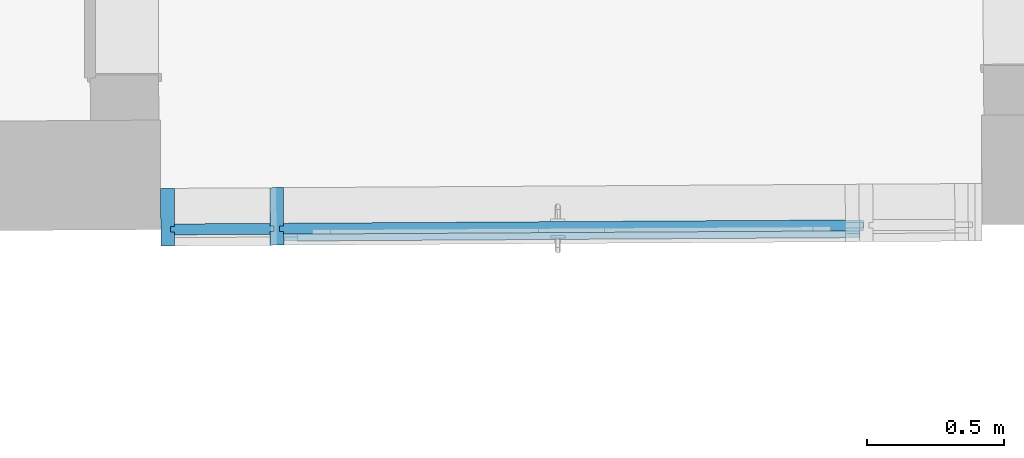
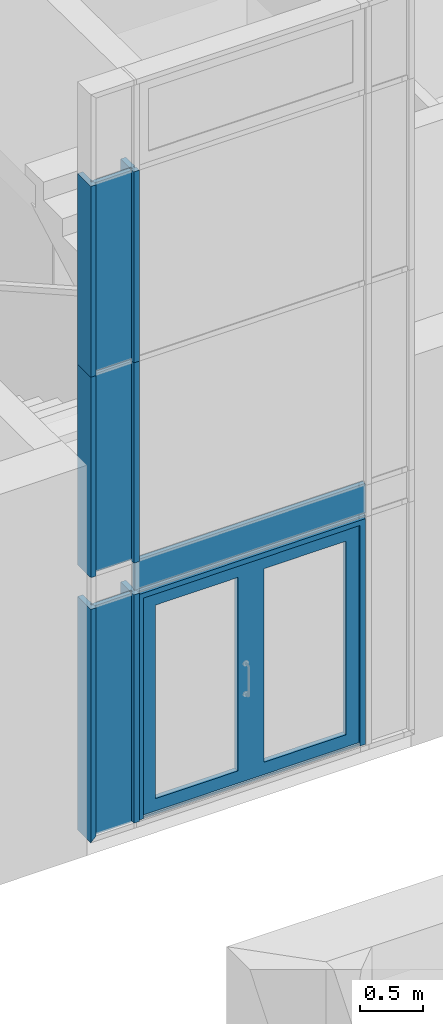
# One storey, part 116 of 196: 11 building element parts, 1 element without a shape of its own.
"""IFC2X3 building model written with IfcOpenShell, lengths in metres."""

import ifcopenshell
import ifcopenshell.guid

model = None  # the IFC model being written
_history = None  # IfcOwnerHistory: only IFC2X3 demands one
_inside = {}  # id of a spatial element -> (the spatial element, [elements in it])
_under = {}  # id of a project, library or spatial element -> (it, [spatial elements below it])
_declared = {}  # id of a project -> (the project, [libraries it declares])
_typed = {}  # id of a type object -> (the type object, [elements of that type])
_made_of = {}  # id of a material, layer set ... -> (it, [elements and type objects made of it])


def new_model(schema):
    """Start an empty IFC model of exactly this schema.

    Asked for "IFC4X3", IfcOpenShell would pick the latest addendum, in which some entities
    have other attributes; the version numbers below select the first issue.
    IFC2X3 requires an IfcOwnerHistory on every rooted entity: one is made here for all.
    """
    global model, _history
    if schema == "IFC4X3":
        model = ifcopenshell.file(schema_version=(4, 3, 0, 0))
    else:
        model = ifcopenshell.file(schema=schema)
    _inside.clear()
    _under.clear()
    _declared.clear()
    _typed.clear()
    _made_of.clear()
    _history = None
    if model.schema == "IFC2X3":
        org = make("IfcOrganization", Name="unknown")
        user = make(
            "IfcPersonAndOrganization",
            ThePerson=make("IfcPerson", FamilyName="unknown"),
            TheOrganization=org,
        )
        app = make(
            "IfcApplication",
            ApplicationDeveloper=org,
            Version="unknown",
            ApplicationFullName="unknown",
            ApplicationIdentifier="unknown",
        )
        _history = make(
            "IfcOwnerHistory",
            OwningUser=user,
            OwningApplication=app,
            ChangeAction="ADDED",
            CreationDate=0,
        )
    return model


def make(cls, **values):
    """One entity of the class cls with the attributes given. An attribute that is None is left unset."""
    return model.create_entity(
        cls, **{name: value for name, value in values.items() if value is not None}
    )


def entity(cls, *values):
    """Any entity or typed value of the class cls, its attributes in the order of the schema. None: left unset."""
    e = model.create_entity(cls)
    for i, value in enumerate(values):
        if value is not None:
            e[i] = value
    return e


def rooted(cls, **values):
    """An entity with a GlobalId (a new one), such as an element, a storey or a relation."""
    return make(cls, GlobalId=ifcopenshell.guid.new(), OwnerHistory=_history, **values)


def si_unit(unit_type, name, prefix=None):
    """IfcSIUnit, for example si_unit("LENGTHUNIT", "METRE", prefix="MILLI")."""
    return make("IfcSIUnit", UnitType=unit_type, Prefix=prefix, Name=name)


def converted_unit(unit_type, name, factor, base, dimensions=None, offset=None):
    """IfcConversionBasedUnit, such as the inch: factor (a typed value) times the base unit."""
    return make(
        "IfcConversionBasedUnit"
        if offset is None
        else "IfcConversionBasedUnitWithOffset",
        ConversionOffset=offset,
        Dimensions=None
        if dimensions is None
        else entity("IfcDimensionalExponents", *dimensions),
        UnitType=unit_type,
        Name=name,
        ConversionFactor=make(
            "IfcMeasureWithUnit", ValueComponent=factor, UnitComponent=base
        ),
    )


def derived_unit(unit_type, elements):
    """IfcDerivedUnit: a product of units, each with its exponent."""
    return make(
        "IfcDerivedUnit",
        Elements=[
            make("IfcDerivedUnitElement", Unit=unit, Exponent=power)
            for unit, power in elements
        ],
        UnitType=unit_type,
    )


def money_unit(currency):
    """IfcMonetaryUnit."""
    return make("IfcMonetaryUnit", Currency=currency)


def assignment(units):
    """IfcUnitAssignment: the units of a project."""
    return None if units is None else make("IfcUnitAssignment", Units=units)


def point(xyz):
    """IfcCartesianPoint."""
    return None if xyz is None else make("IfcCartesianPoint", Coordinates=xyz)


def direction(xyz):
    """IfcDirection."""
    return None if xyz is None else make("IfcDirection", DirectionRatios=xyz)


def frame(location, z_axis=None, x_axis=None):
    """IfcAxis2Placement3D, a coordinate frame: its origin and axes. An axis left out is left unset."""
    return make(
        "IfcAxis2Placement3D",
        Location=point(location),
        Axis=direction(z_axis),
        RefDirection=direction(x_axis),
    )


def origin_with_axes():
    """The frame at (0, 0, 0) with the z axis (0, 0, 1) and the x axis (1, 0, 0) written out."""
    return frame((0.0, 0.0, 0.0), z_axis=(0.0, 0.0, 1.0), x_axis=(1.0, 0.0, 0.0))


def place(relative_to, where):
    """IfcLocalPlacement: puts the frame where relative to a parent placement (None: the world)."""
    return make(
        "IfcLocalPlacement", PlacementRelTo=relative_to, RelativePlacement=where
    )


def context(
    kind, dimensions, precision=None, world=None, true_north=None, identifier=None
):
    """IfcGeometricRepresentationContext, for example the 3D "Model" context."""
    return make(
        "IfcGeometricRepresentationContext",
        ContextIdentifier=identifier,
        ContextType=kind,
        CoordinateSpaceDimension=dimensions,
        Precision=precision,
        WorldCoordinateSystem=world,
        TrueNorth=true_north,
    )


def subcontext(parent, identifier, kind, view, scale=None):
    """IfcGeometricRepresentationSubContext, for example "Body" below "Model"."""
    return make(
        "IfcGeometricRepresentationSubContext",
        ContextIdentifier=identifier,
        ContextType=kind,
        ParentContext=parent,
        TargetScale=scale,
        TargetView=view,
    )


def project(units=None, contexts=None):
    """IfcProject with its units and contexts."""
    return rooted(
        "IfcProject",
        Name="project",
        RepresentationContexts=contexts,
        UnitsInContext=assignment(units),
    )


def spatial(cls, under=None, at=None, **own):
    """A site, building, storey or space (cls), placed at a placement, below another one or the project."""
    s = rooted(cls, ObjectPlacement=at, **own)
    if under is not None:
        _under.setdefault(under.id(), (under, []))[1].append(s)
    return s


def faces_of(points, faces, orient=None, outer=None):
    """IfcFace entities. A face is a list of loops; a loop is a list of indices into points, from 0.

    orient and outer hold one flag for each loop. By default every Orientation is true, the
    first loop of a face is its IfcFaceOuterBound and the others are IfcFaceBound.
    """
    made = []
    for i, loops in enumerate(faces):
        bounds = []
        for j, loop in enumerate(loops):
            is_outer = j == 0 if outer is None else outer[i][j]
            bounds.append(
                make(
                    "IfcFaceOuterBound" if is_outer else "IfcFaceBound",
                    Bound=make("IfcPolyLoop", Polygon=[points[k] for k in loop]),
                    Orientation=True if orient is None else orient[i][j],
                )
            )
        made.append(make("IfcFace", Bounds=bounds))
    return made


def open_shell(faces, orient=None, outer=None):
    """The faces of one IfcOpenShell. surface_model builds it on its shared points."""
    return ("IfcOpenShell", faces, orient, outer)


def faceted_brep(points, faces, orient=None, outer=None, voids=None):
    """IfcFacetedBrep: a solid bounded by flat faces; with voids (closed shells), ...WithVoids."""
    shared = [point(p) for p in points]
    hull = make("IfcClosedShell", CfsFaces=faces_of(shared, faces, orient, outer))
    if voids is None:
        return make("IfcFacetedBrep", Outer=hull)
    return make(
        "IfcFacetedBrepWithVoids",
        Outer=hull,
        Voids=[
            make(cls, CfsFaces=faces_of(shared, fs, o, b)) for cls, fs, o, b in voids
        ],
    )


def surface_model(cls, points, shells):
    """IfcFaceBasedSurfaceModel or IfcShellBasedSurfaceModel (cls): surfaces that need not close."""
    shared = [point(p) for p in points]
    made = [make(c, CfsFaces=faces_of(shared, fs, o, b)) for c, fs, o, b in shells]
    if cls == "IfcFaceBasedSurfaceModel":
        return make(cls, FbsmFaces=made)
    return make(cls, SbsmBoundary=made)


def shape(context_of_items, identifier, shape_type, items):
    """IfcShapeRepresentation: the items that make up one representation, for example the "Body"."""
    return make(
        "IfcShapeRepresentation",
        ContextOfItems=context_of_items,
        RepresentationIdentifier=identifier,
        RepresentationType=shape_type,
        Items=items,
    )


def material(Name=None, Category=None):
    """IfcMaterial."""
    return make("IfcMaterial", Name=Name, Category=Category)


def made_of(thing, what):
    """Note that an element or type object is made of a material, layer set ...; save() writes the relation."""
    if what is not None:
        _made_of.setdefault(what.id(), (what, []))[1].append(thing)
    return thing


def type_object(cls, material=None, **own):
    """A type object (cls), such as IfcWallType, which elements share."""
    return made_of(rooted(cls, **own), material)


def element(
    cls,
    number,
    at=None,
    inside=None,
    cuts=None,
    type_object=None,
    material=None,
    context=None,
    identifier="Body",
    shape_type=None,
    held_by="IfcProductDefinitionShape",
    body=None,
    shapes=None,
    **own,
):
    """One element of the class cls, such as IfcWall. Its Tag is "e" and its number.

    at: its placement. inside: the storey or other place that contains it. cuts: it is an
    opening in that element (IfcRelVoidsElement). A single representation is given by context,
    identifier, shape_type and body (its items); several are given by shapes. held_by: the class
    of the entity that holds the representations. save() writes the other relations.
    """
    e = rooted(cls, Tag="e%d" % number, ObjectPlacement=at, **own)
    if body is not None:
        shapes = [shape(context, identifier, shape_type, body)]
    if shapes is not None:
        e.Representation = make(held_by, Representations=shapes)
    if inside is not None:
        _inside.setdefault(inside.id(), (inside, []))[1].append(e)
    if cuts is not None:
        rooted(
            "IfcRelVoidsElement", RelatingBuildingElement=cuts, RelatedOpeningElement=e
        )
    if type_object is not None:
        _typed.setdefault(type_object.id(), (type_object, []))[1].append(e)
    return made_of(e, material)


def aggregate(whole, parts):
    """IfcRelAggregates: a whole, such as a stair, and the parts it consists of."""
    return rooted("IfcRelAggregates", RelatingObject=whole, RelatedObjects=parts)


def save(model, path):
    """Write the relations noted so far, then the file.

    IfcRelAggregates (storeys below a building ...), IfcRelContainedInSpatialStructure (elements
    in a storey), IfcRelDefinesByType, IfcRelAssociatesMaterial and IfcRelDeclares: one each for
    every whole, place, type object, material and project.
    """
    for whole, parts in _under.values():
        aggregate(whole, parts)
    for where, things in _inside.values():
        rooted(
            "IfcRelContainedInSpatialStructure",
            RelatedElements=things,
            RelatingStructure=where,
        )
    for kind, things in _typed.values():
        rooted("IfcRelDefinesByType", RelatedObjects=things, RelatingType=kind)
    for what, things in _made_of.values():
        rooted("IfcRelAssociatesMaterial", RelatedObjects=things, RelatingMaterial=what)
    for by, libraries in _declared.values():
        rooted("IfcRelDeclares", RelatingContext=by, RelatedDefinitions=libraries)
    model.write(path)


model = new_model("IFC2X3")

# Units and contexts
model_context = context("Model", 3, precision=1e-05, world=origin_with_axes(), true_north=direction((0.0, 1.0)))
body_context = subcontext(model_context, "Body", "Model", "MODEL_VIEW")
ifc_project = project(units=[si_unit("LENGTHUNIT", "METRE"), si_unit("AREAUNIT", "SQUARE_METRE"), si_unit("VOLUMEUNIT", "CUBIC_METRE"), converted_unit("PLANEANGLEUNIT", "DEGREE", entity("IfcPlaneAngleMeasure", 0.0174532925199), si_unit("PLANEANGLEUNIT", "RADIAN"), dimensions=[0, 0, 0, 0, 0, 0, 0]), money_unit("EUR"), converted_unit("TIMEUNIT", "Year", entity("IfcTimeMeasure", 31556926.0), si_unit("TIMEUNIT", "SECOND"), dimensions=[0, 0, 1, 0, 0, 0, 0]), si_unit("MASSUNIT", "GRAM", prefix="KILO"), si_unit("THERMODYNAMICTEMPERATUREUNIT", "DEGREE_CELSIUS"), si_unit("LUMINOUSINTENSITYUNIT", "LUMEN"), si_unit("ENERGYUNIT", "JOULE", prefix="MEGA"), derived_unit("THERMALCONDUCTANCEUNIT", [(si_unit("POWERUNIT", "WATT"), 1), (si_unit("LENGTHUNIT", "METRE"), -1), (si_unit("THERMODYNAMICTEMPERATUREUNIT", "KELVIN"), -1)]), derived_unit("SPECIFICHEATCAPACITYUNIT", [(si_unit("ENERGYUNIT", "JOULE"), 1), (si_unit("MASSUNIT", "GRAM", prefix="KILO"), -1), (si_unit("THERMODYNAMICTEMPERATUREUNIT", "KELVIN"), -1)]), derived_unit("MASSDENSITYUNIT", [(si_unit("MASSUNIT", "GRAM", prefix="KILO"), 1), (si_unit("VOLUMEUNIT", "CUBIC_METRE"), -1)])], contexts=[model_context])

# Site, building, storey
site_placement = place(None, origin_with_axes())
site = spatial("IfcSite", under=ifc_project, at=site_placement, Name="Gelände", CompositionType="ELEMENT")
building_placement = place(site_placement, origin_with_axes())
building = spatial("IfcBuilding", under=site, at=building_placement, Name="Gebäude", CompositionType="ELEMENT")
storey_placement = place(building_placement, frame((0.0, 0.0, -3.0), z_axis=(0.0, 0.0, 1.0), x_axis=(1.0, 0.0, 0.0)))
storey = spatial("IfcBuildingStorey", under=building, at=storey_placement, Name="KELLERGESCHOSS", CompositionType="ELEMENT", Elevation=-3.0)

# Proxy, building element parts
building_element_proxy_type = type_object("IfcBuildingElementProxyType", Name="Fassadentyp", PredefinedType="NOTDEFINED")
proxy_placement = place(storey_placement, frame((-23.8310150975, 30.9074049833, 0.410855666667), z_axis=(0.0, 0.0, 1.0), x_axis=(1.0, 0.0, 0.0)))
proxy = element("IfcBuildingElementProxy", 1, at=proxy_placement, inside=storey, type_object=building_element_proxy_type, Name="Fassade-002")
ifc_material_1 = material(Name="45_Glas, Normalglas")
building_element_part_1_placement = place(proxy_placement, origin_with_axes())
building_element_part_1 = element("IfcBuildingElementPart", 2, at=building_element_part_1_placement, material=ifc_material_1, Name="45_Glas, Normalglas", context=body_context, shape_type="Brep", body=[
    faceted_brep([(-2.4028618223, 0.00561810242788, 6.39594889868), (-2.4166059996, 0.00553583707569, 6.39594889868), (-2.41636658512, -0.0344634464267, 6.39594889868), (-2.40262240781, -0.0343811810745, 6.39594889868), (-2.4028618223, 0.00561810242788, 4.55226283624), (-2.4166059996, 0.00553583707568, 4.55226283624), (-2.78159947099, 0.00335117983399, 4.55226283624), (-2.78159947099, 0.00335117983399, 6.39594889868), (-2.78136005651, -0.0366481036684, 6.39594889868), (-2.78136005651, -0.0366481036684, 4.55226283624), (-2.41636658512, -0.0344634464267, 4.55226283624), (-2.40262240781, -0.0343811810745, 4.55226283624)], [[[0, 1, 2, 3]], [[0, 4, 5, 6, 7, 1]], [[1, 7, 8, 2]], [[3, 2, 8, 9, 10, 11]], [[4, 0, 3, 11]], [[5, 4, 11, 10]], [[6, 5, 10, 9]], [[7, 6, 9, 8]]]),
])
building_element_part_2_placement = place(proxy_placement, origin_with_axes())
building_element_part_2 = element("IfcBuildingElementPart", 3, at=building_element_part_2_placement, material=ifc_material_1, Name="45_Glas, Normalglas", context=body_context, shape_type="Brep", body=[
    faceted_brep([(-0.250846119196, 0.0184989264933, 2.57656079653), (-0.316643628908, 0.0181050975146, 2.57656079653), (-0.316404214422, -0.0218941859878, 2.57656079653), (-0.25060670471, -0.0215003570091, 2.57656079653), (-0.250846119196, 0.0184989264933, 2.28812768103), (-0.316643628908, 0.0181050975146, 2.28812768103), (-2.3828621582, 0.00573780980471, 2.28812768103), (-2.38286219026, 0.00573780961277, 2.57656079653), (-2.38262277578, -0.0342614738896, 2.57656079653), (-2.38262274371, -0.0342614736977, 2.28812768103), (-0.316404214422, -0.0218941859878, 2.28812768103), (-0.25060670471, -0.0215003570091, 2.28812768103)], [[[0, 1, 2, 3]], [[0, 4, 5, 6, 7, 1]], [[1, 7, 8, 2]], [[3, 2, 8, 9, 10, 11]], [[4, 0, 3, 11]], [[5, 4, 11, 10]], [[6, 5, 10, 9]], [[7, 6, 9, 8]]]),
])
ifc_material_2 = material(Name="53_Metall, Aluminium")
building_element_part_3_placement = place(proxy_placement, origin_with_axes())
building_element_part_3 = element("IfcBuildingElementPart", 4, at=building_element_part_3_placement, material=ifc_material_2, Name="53_Metall, Aluminium", context=body_context, shape_type="SurfaceModel", body=[
    surface_model("IfcShellBasedSurfaceModel", [(-0.26584587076, 0.0184091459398, 0.0500000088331), (-0.340844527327, 0.0179602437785, 0.0500000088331), (-0.340844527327, 0.0179602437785, 2.17812767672), (-0.26584587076, 0.0184091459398, 2.25312767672)], [open_shell([[[0, 1, 2, 3]]])]),
    surface_model("IfcShellBasedSurfaceModel", [(-2.36786243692, 0.00582759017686, 2.25312767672), (-0.26584587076, 0.0184091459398, 2.25312767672), (-0.340844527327, 0.0179602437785, 2.17812767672), (-2.29286378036, 0.00627649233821, 2.17812767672)], [open_shell([[[0, 1, 2, 3]]])]),
    surface_model("IfcShellBasedSurfaceModel", [(-2.36786243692, 0.00582759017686, 0.0500000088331), (-2.36786243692, 0.00582759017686, 2.25312767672), (-2.29286378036, 0.00627649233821, 2.17812767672), (-2.29286378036, 0.00627649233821, 0.0500000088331)], [open_shell([[[0, 1, 2, 3]]])]),
    faceted_brep([(-0.26584587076, 0.0184091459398, 0.0500000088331), (-0.26584587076, 0.0184091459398, 2.25312767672), (-0.26545682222, -0.0465896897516, 2.25312767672), (-0.26545682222, -0.0465896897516, 0.0500000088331), (-0.315844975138, 0.0181098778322, 0.0500000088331), (-0.315844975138, 0.0181098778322, 2.20312767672), (-0.315455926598, -0.0468889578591, 2.20312767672), (-0.315455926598, -0.0468889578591, 0.0500000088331)], [[[0, 1, 2, 3]], [[0, 4, 5, 1]], [[1, 5, 6, 2]], [[3, 2, 6, 7]], [[4, 0, 3, 7]], [[5, 4, 7, 6]]]),
    faceted_brep([(-2.36786243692, 0.00582759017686, 2.25312767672), (-2.31786333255, 0.00612685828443, 2.20312767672), (-2.31747428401, -0.0588719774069, 2.20312767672), (-2.36747338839, -0.0591712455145, 2.25312767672), (-0.26584587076, 0.0184091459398, 2.25312767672), (-0.315844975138, 0.0181098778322, 2.20312767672), (-0.315455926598, -0.0468889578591, 2.20312767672), (-0.26545682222, -0.0465896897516, 2.25312767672)], [[[0, 1, 2, 3]], [[0, 4, 5, 1]], [[1, 5, 6, 2]], [[3, 2, 6, 7]], [[4, 0, 3, 7]], [[5, 4, 7, 6]]]),
    faceted_brep([(-2.36786243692, 0.00582759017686, 0.0500000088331), (-2.31786333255, 0.00612685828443, 0.0500000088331), (-2.31747428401, -0.0588719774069, 0.0500000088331), (-2.36747338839, -0.0591712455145, 0.0500000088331), (-2.36786243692, 0.00582759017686, 2.25312767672), (-2.31786333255, 0.00612685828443, 2.20312767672), (-2.31747428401, -0.0588719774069, 2.20312767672), (-2.36747338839, -0.0591712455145, 2.25312767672)], [[[0, 1, 2, 3]], [[0, 4, 5, 1]], [[1, 5, 6, 2]], [[3, 2, 6, 7]], [[4, 0, 3, 7]], [[5, 4, 7, 6]]]),
    faceted_brep([(-2.3828621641, 0.00573780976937, 0.0350000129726), (-0.250846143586, 0.0184989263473, 0.0350000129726), (-0.2506067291, -0.0215003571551, 0.0350000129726), (-2.38262274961, -0.034261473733, 0.0350000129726), (-2.36786243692, 0.00582759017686, 0.0500000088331), (-0.26584587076, 0.0184091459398, 0.0500000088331), (-0.265606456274, -0.0215901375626, 0.0500000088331), (-2.36762302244, -0.0341716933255, 0.0500000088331)], [[[0, 1, 2, 3]], [[0, 4, 5, 1]], [[1, 5, 6, 2]], [[3, 2, 6, 7]], [[4, 0, 3, 7]], [[5, 4, 7, 6]]]),
    faceted_brep([(-0.250846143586, 0.0184989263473, 0.0350000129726), (-0.250846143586, 0.0184989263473, 2.26812767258), (-0.2506067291, -0.0215003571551, 2.26812767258), (-0.2506067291, -0.0215003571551, 0.0350000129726), (-0.26584587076, 0.0184091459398, 0.0500000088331), (-0.26584587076, 0.0184091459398, 2.25312767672), (-0.265606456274, -0.0215901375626, 2.25312767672), (-0.265606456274, -0.0215901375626, 0.0500000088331)], [[[0, 1, 2, 3]], [[0, 4, 5, 1]], [[1, 5, 6, 2]], [[3, 2, 6, 7]], [[4, 0, 3, 7]], [[5, 4, 7, 6]]]),
    faceted_brep([(-0.250846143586, 0.0184989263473, 2.26812767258), (-2.3828621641, 0.00573780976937, 2.26812767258), (-2.38262274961, -0.034261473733, 2.26812767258), (-0.2506067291, -0.0215003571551, 2.26812767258), (-0.26584587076, 0.0184091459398, 2.25312767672), (-2.36786243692, 0.00582759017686, 2.25312767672), (-2.36762302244, -0.0341716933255, 2.25312767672), (-0.265606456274, -0.0215901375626, 2.25312767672)], [[[0, 1, 2, 3]], [[0, 4, 5, 1]], [[1, 5, 6, 2]], [[3, 2, 6, 7]], [[4, 0, 3, 7]], [[5, 4, 7, 6]]]),
    faceted_brep([(-2.3828621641, 0.00573780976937, 2.26812767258), (-2.3828621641, 0.00573780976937, 0.0350000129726), (-2.38262274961, -0.034261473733, 0.0350000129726), (-2.38262274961, -0.034261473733, 2.26812767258), (-2.36786243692, 0.00582759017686, 2.25312767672), (-2.36786243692, 0.00582759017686, 0.0500000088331), (-2.36762302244, -0.0341716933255, 0.0500000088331), (-2.36762302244, -0.0341716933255, 2.25312767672)], [[[0, 1, 2, 3]], [[0, 4, 5, 1]], [[1, 5, 6, 2]], [[3, 2, 6, 7]], [[4, 0, 3, 7]], [[5, 4, 7, 6]]]),
    faceted_brep([(-2.19786548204, 0.00684510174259, 0.195000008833), (-2.19786548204, 0.00684510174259, 2.08312767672), (-2.19756621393, -0.0431540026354, 2.08312767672), (-2.19756621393, -0.0431540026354, 0.195000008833), (-2.31786333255, 0.00612685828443, 0.0750000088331), (-2.31786333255, 0.00612685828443, 2.20312767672), (-2.31756406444, -0.0438722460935, 2.20312767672), (-2.31756406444, -0.0438722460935, 0.0750000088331)], [[[0, 1, 2, 3]], [[0, 4, 5, 1]], [[1, 5, 6, 2]], [[3, 2, 6, 7]], [[4, 0, 3, 7]], [[5, 4, 7, 6]]]),
    faceted_brep([(-1.31685415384, 0.0121183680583, 0.0750000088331), (-1.31685415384, 0.0121183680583, 2.20312767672), (-1.31655488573, -0.0378807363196, 2.20312767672), (-1.31655488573, -0.0378807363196, 0.0750000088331), (-1.43685200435, 0.0114001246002, 0.195000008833), (-1.43685200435, 0.0114001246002, 2.08312767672), (-1.43655273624, -0.0385989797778, 2.08312767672), (-1.43655273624, -0.0385989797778, 0.195000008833)], [[[0, 1, 2, 3]], [[0, 4, 5, 1]], [[1, 5, 6, 2]], [[3, 2, 6, 7]], [[4, 0, 3, 7]], [[5, 4, 7, 6]]]),
    faceted_brep([(-1.31685415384, 0.0121183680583, 0.0750000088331), (-1.43685200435, 0.0114001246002, 0.195000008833), (-1.43655273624, -0.0385989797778, 0.195000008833), (-1.31655488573, -0.0378807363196, 0.0750000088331), (-2.31786333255, 0.00612685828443, 0.0750000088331), (-2.19786548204, 0.00684510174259, 0.195000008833), (-2.19756621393, -0.0431540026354, 0.195000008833), (-2.31756406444, -0.0438722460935, 0.0750000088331)], [[[0, 1, 2, 3]], [[0, 4, 5, 1]], [[1, 5, 6, 2]], [[3, 2, 6, 7]], [[4, 0, 3, 7]], [[5, 4, 7, 6]]]),
    faceted_brep([(-2.31786333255, 0.00612685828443, 2.20312767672), (-2.19786548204, 0.00684510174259, 2.08312767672), (-2.19756621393, -0.0431540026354, 2.08312767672), (-2.31756406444, -0.0438722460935, 2.20312767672), (-1.31685415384, 0.0121183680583, 2.20312767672), (-1.43685200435, 0.0114001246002, 2.08312767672), (-1.43655273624, -0.0385989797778, 2.08312767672), (-1.31655488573, -0.0378807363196, 2.20312767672)], [[[0, 1, 2, 3]], [[0, 4, 5, 1]], [[1, 5, 6, 2]], [[3, 2, 6, 7]], [[4, 0, 3, 7]], [[5, 4, 7, 6]]]),
    faceted_brep([(-1.19685630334, 0.0128366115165, 0.195000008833), (-1.19685630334, 0.0128366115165, 2.08312767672), (-1.19655703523, -0.0371624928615, 2.08312767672), (-1.19655703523, -0.0371624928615, 0.195000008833), (-1.31685415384, 0.0121183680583, 0.0750000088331), (-1.31685415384, 0.0121183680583, 2.20312767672), (-1.31655488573, -0.0378807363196, 2.20312767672), (-1.31655488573, -0.0378807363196, 0.0750000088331)], [[[0, 1, 2, 3]], [[0, 4, 5, 1]], [[1, 5, 6, 2]], [[3, 2, 6, 7]], [[4, 0, 3, 7]], [[5, 4, 7, 6]]]),
    faceted_brep([(-0.315844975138, 0.0181098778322, 0.0750000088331), (-0.315844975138, 0.0181098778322, 2.20312767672), (-0.315545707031, -0.0318892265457, 2.20312767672), (-0.315545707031, -0.0318892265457, 0.0750000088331), (-0.435842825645, 0.0173916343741, 0.195000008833), (-0.435842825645, 0.0173916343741, 2.08312767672), (-0.435543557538, -0.0326074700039, 2.08312767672), (-0.435543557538, -0.0326074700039, 0.195000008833)], [[[0, 1, 2, 3]], [[0, 4, 5, 1]], [[1, 5, 6, 2]], [[3, 2, 6, 7]], [[4, 0, 3, 7]], [[5, 4, 7, 6]]]),
    faceted_brep([(-0.315844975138, 0.0181098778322, 0.0750000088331), (-0.435842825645, 0.0173916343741, 0.195000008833), (-0.435543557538, -0.0326074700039, 0.195000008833), (-0.315545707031, -0.0318892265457, 0.0750000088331), (-1.31685415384, 0.0121183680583, 0.0750000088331), (-1.19685630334, 0.0128366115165, 0.195000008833), (-1.19655703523, -0.0371624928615, 0.195000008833), (-1.31655488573, -0.0378807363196, 0.0750000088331)], [[[0, 1, 2, 3]], [[0, 4, 5, 1]], [[1, 5, 6, 2]], [[3, 2, 6, 7]], [[4, 0, 3, 7]], [[5, 4, 7, 6]]]),
    faceted_brep([(-1.31685415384, 0.0121183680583, 2.20312767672), (-1.19685630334, 0.0128366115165, 2.08312767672), (-1.19655703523, -0.0371624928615, 2.08312767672), (-1.31655488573, -0.0378807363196, 2.20312767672), (-0.315844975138, 0.0181098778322, 2.20312767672), (-0.435842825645, 0.0173916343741, 2.08312767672), (-0.435543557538, -0.0326074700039, 2.08312767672), (-0.315545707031, -0.0318892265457, 2.20312767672)], [[[0, 1, 2, 3]], [[0, 4, 5, 1]], [[1, 5, 6, 2]], [[3, 2, 6, 7]], [[4, 0, 3, 7]], [[5, 4, 7, 6]]]),
])
building_element_part_4_placement = place(proxy_placement, origin_with_axes())
building_element_part_4 = element("IfcBuildingElementPart", 5, at=building_element_part_4_placement, material=ifc_material_1, Name="45_Glas, Normalglas", context=body_context, shape_type="Brep", body=[
    faceted_brep([(-2.40286180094, 0.00561810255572, 2.26812767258), (-2.416605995, 0.00553583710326, 2.26812767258), (-2.41636658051, -0.0344634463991, 2.26812767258), (-2.40262238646, -0.0343811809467, 2.26812767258), (-2.40286180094, 0.00561810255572, 0.0350000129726), (-2.416605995, 0.00553583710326, 0.0350000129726), (-2.78159944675, 0.00335117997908, 0.0350000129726), (-2.78159944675, 0.00335117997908, 2.26812767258), (-2.78136003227, -0.0366481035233, 2.26812767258), (-2.78136003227, -0.0366481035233, 0.0350000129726), (-2.41636658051, -0.0344634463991, 0.0350000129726), (-2.40262238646, -0.0343811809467, 0.0350000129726)], [[[0, 1, 2, 3]], [[0, 4, 5, 6, 7, 1]], [[1, 7, 8, 2]], [[3, 2, 8, 9, 10, 11]], [[4, 0, 3, 11]], [[5, 4, 11, 10]], [[6, 5, 10, 9]], [[7, 6, 9, 8]]]),
])
building_element_part_5_placement = place(proxy_placement, origin_with_axes())
building_element_part_5 = element("IfcBuildingElementPart", 6, at=building_element_part_5_placement, material=ifc_material_1, Name="45_Glas, Normalglas", context=body_context, shape_type="Brep", body=[
    faceted_brep([(-2.40286181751, 0.00561810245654, 4.53226285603), (-2.41660599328, 0.00553583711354, 4.53226285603), (-2.41636657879, -0.0344634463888, 4.53226285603), (-2.40262240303, -0.0343811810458, 4.53226285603), (-2.40286181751, 0.00561810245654, 2.59656079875), (-2.41660599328, 0.00553583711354, 2.59656079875), (-2.78159946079, 0.00335117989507, 2.59656079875), (-2.78159946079, 0.00335117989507, 4.53226285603), (-2.7813600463, -0.0366481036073, 4.53226285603), (-2.7813600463, -0.0366481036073, 2.59656079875), (-2.41636657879, -0.0344634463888, 2.59656079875), (-2.40262240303, -0.0343811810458, 2.59656079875)], [[[0, 1, 2, 3]], [[0, 4, 5, 6, 7, 1]], [[1, 7, 8, 2]], [[3, 2, 8, 9, 10, 11]], [[4, 0, 3, 11]], [[5, 4, 11, 10]], [[6, 5, 10, 9]], [[7, 6, 9, 8]]]),
])
building_element_part_6_placement = place(proxy_placement, origin_with_axes())
building_element_part_6 = element("IfcBuildingElementPart", 7, at=building_element_part_6_placement, material=ifc_material_2, Name="53_Metall, Aluminium", context=body_context, shape_type="Brep", body=[
    faceted_brep([(-2.7815396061, -0.00664864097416, 4.5422628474), (-2.76653987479, -0.00655886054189, 4.5422628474), (-2.76737782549, 0.133438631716, 4.5422628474), (-2.81737692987, 0.133139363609, 4.5422628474), (-2.81612000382, -0.0768568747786, 4.5422628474), (-2.76612089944, -0.0765576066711, 4.5422628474), (-2.76642016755, -0.0265585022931, 4.5422628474), (-2.78141989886, -0.0266482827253, 4.5422628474), (-2.7815396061, -0.00664864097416, 2.58656080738), (-2.76653987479, -0.00655886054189, 2.58656080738), (-2.76737782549, 0.133438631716, 2.58656080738), (-2.81737692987, 0.133139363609, 2.58656080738), (-2.81612000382, -0.0768568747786, 2.58656080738), (-2.76612089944, -0.0765576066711, 2.58656080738), (-2.76642016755, -0.0265585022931, 2.58656080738), (-2.78141989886, -0.0266482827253, 2.58656080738)], [[[0, 1, 2, 3, 4, 5, 6, 7]], [[0, 8, 9, 1]], [[9, 10, 2, 1]], [[10, 11, 3, 2]], [[11, 12, 4, 3]], [[12, 13, 5, 4]], [[6, 5, 13, 14]], [[14, 15, 7, 6]], [[7, 15, 8, 0]], [[8, 15, 14, 13, 12, 11, 10, 9]]]),
])
building_element_part_7_placement = place(proxy_placement, origin_with_axes())
building_element_part_7 = element("IfcBuildingElementPart", 8, at=building_element_part_7_placement, material=ifc_material_2, Name="53_Metall, Aluminium", context=body_context, shape_type="Brep", body=[
    faceted_brep([(-2.38280233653, -0.00426201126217, 4.54226284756), (-2.36780260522, -0.00417223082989, 4.54226284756), (-2.36864055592, 0.135825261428, 4.54226284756), (-2.4186396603, 0.135525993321, 4.54226284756), (-2.4178017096, -0.00447149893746, 4.54226284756), (-2.40280197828, -0.00438171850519, 4.54226284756), (-2.40268227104, -0.0243813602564, 4.54226284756), (-2.41768200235, -0.0244711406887, 4.54226284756), (-2.41738273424, -0.0744702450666, 4.54226284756), (-2.36738362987, -0.0741709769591, 4.54226284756), (-2.36768289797, -0.0241718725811, 4.54226284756), (-2.38268262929, -0.0242616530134, 4.54226284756), (-2.38280233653, -0.00426201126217, 2.58656080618), (-2.36780260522, -0.00417223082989, 2.58656080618), (-2.36864055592, 0.135825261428, 2.58656080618), (-2.4186396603, 0.135525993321, 2.58656080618), (-2.4178017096, -0.00447149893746, 2.58656080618), (-2.40280197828, -0.00438171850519, 2.58656080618), (-2.40268227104, -0.0243813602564, 2.58656080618), (-2.41768200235, -0.0244711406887, 2.58656080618), (-2.41738273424, -0.0744702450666, 2.58656080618), (-2.36738362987, -0.0741709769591, 2.58656080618), (-2.36768289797, -0.0241718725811, 2.58656080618), (-2.38268262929, -0.0242616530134, 2.58656080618)], [[[0, 1, 2, 3, 4, 5, 6, 7, 8, 9, 10, 11]], [[1, 0, 12, 13]], [[1, 13, 14, 2]], [[3, 2, 14, 15]], [[4, 3, 15, 16]], [[4, 16, 17, 5]], [[5, 17, 18, 6]], [[7, 6, 18, 19]], [[19, 20, 8, 7]], [[9, 8, 20, 21]], [[22, 10, 9, 21]], [[11, 10, 22, 23]], [[0, 11, 23, 12]], [[23, 22, 21, 20, 19, 18, 17, 16, 15, 14, 13, 12]]]),
])
building_element_part_8_placement = place(proxy_placement, origin_with_axes())
building_element_part_8 = element("IfcBuildingElementPart", 9, at=building_element_part_8_placement, material=ifc_material_2, Name="53_Metall, Aluminium", context=body_context, shape_type="Brep", body=[
    faceted_brep([(-2.7815396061, -0.00664864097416, 6.40594888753), (-2.76653987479, -0.00655886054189, 6.40594888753), (-2.76737782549, 0.133438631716, 6.40594888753), (-2.81737692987, 0.133139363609, 6.40594888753), (-2.81612000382, -0.0768568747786, 6.40594888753), (-2.76612089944, -0.0765576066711, 6.40594888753), (-2.76642016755, -0.0265585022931, 6.40594888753), (-2.78141989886, -0.0266482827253, 6.40594888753), (-2.7815396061, -0.00664864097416, 4.5422628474), (-2.76653987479, -0.00655886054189, 4.5422628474), (-2.76737782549, 0.133438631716, 4.5422628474), (-2.81737692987, 0.133139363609, 4.5422628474), (-2.81612000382, -0.0768568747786, 4.5422628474), (-2.76612089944, -0.0765576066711, 4.5422628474), (-2.76642016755, -0.0265585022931, 4.5422628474), (-2.78141989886, -0.0266482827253, 4.5422628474)], [[[0, 1, 2, 3, 4, 5, 6, 7]], [[0, 8, 9, 1]], [[9, 10, 2, 1]], [[10, 11, 3, 2]], [[11, 12, 4, 3]], [[12, 13, 5, 4]], [[6, 5, 13, 14]], [[14, 15, 7, 6]], [[7, 15, 8, 0]], [[8, 15, 14, 13, 12, 11, 10, 9]]]),
])
building_element_part_9_placement = place(proxy_placement, origin_with_axes())
building_element_part_9 = element("IfcBuildingElementPart", 10, at=building_element_part_9_placement, material=ifc_material_2, Name="53_Metall, Aluminium", context=body_context, shape_type="Brep", body=[
    faceted_brep([(-2.38280233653, -0.00426201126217, 6.40594888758), (-2.36780260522, -0.0041722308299, 6.40594888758), (-2.36864055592, 0.135825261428, 6.40594888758), (-2.4186396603, 0.135525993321, 6.40594888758), (-2.4178017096, -0.00447149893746, 6.40594888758), (-2.40280197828, -0.00438171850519, 6.40594888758), (-2.40268227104, -0.0243813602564, 6.40594888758), (-2.41768200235, -0.0244711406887, 6.40594888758), (-2.41738273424, -0.0744702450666, 6.40594888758), (-2.36738362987, -0.0741709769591, 6.40594888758), (-2.36768289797, -0.0241718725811, 6.40594888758), (-2.38268262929, -0.0242616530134, 6.40594888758), (-2.38280233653, -0.00426201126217, 4.54226284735), (-2.36780260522, -0.0041722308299, 4.54226284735), (-2.36864055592, 0.135825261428, 4.54226284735), (-2.4186396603, 0.135525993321, 4.54226284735), (-2.4178017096, -0.00447149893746, 4.54226284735), (-2.40280197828, -0.00438171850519, 4.54226284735), (-2.40268227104, -0.0243813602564, 4.54226284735), (-2.41768200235, -0.0244711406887, 4.54226284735), (-2.41738273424, -0.0744702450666, 4.54226284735), (-2.36738362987, -0.0741709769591, 4.54226284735), (-2.36768289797, -0.0241718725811, 4.54226284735), (-2.38268262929, -0.0242616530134, 4.54226284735)], [[[0, 1, 2, 3, 4, 5, 6, 7, 8, 9, 10, 11]], [[1, 0, 12, 13]], [[1, 13, 14, 2]], [[3, 2, 14, 15]], [[4, 3, 15, 16]], [[4, 16, 17, 5]], [[5, 17, 18, 6]], [[7, 6, 18, 19]], [[19, 20, 8, 7]], [[9, 8, 20, 21]], [[22, 10, 9, 21]], [[11, 10, 22, 23]], [[0, 11, 23, 12]], [[23, 22, 21, 20, 19, 18, 17, 16, 15, 14, 13, 12]]]),
])
building_element_part_10_placement = place(proxy_placement, origin_with_axes())
building_element_part_10 = element("IfcBuildingElementPart", 11, at=building_element_part_10_placement, material=ifc_material_2, Name="53_Metall, Aluminium", context=body_context, shape_type="Brep", body=[
    faceted_brep([(-2.7815396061, -0.00664864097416, 2.27812768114), (-2.76653987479, -0.00655886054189, 2.27812768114), (-2.76737782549, 0.133438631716, 2.27812768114), (-2.81737692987, 0.133139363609, 2.27812768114), (-2.81612000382, -0.0768568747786, 2.27812768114), (-2.76612089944, -0.0765576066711, 2.27812768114), (-2.76642016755, -0.0265585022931, 2.27812768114), (-2.78141989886, -0.0266482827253, 2.27812768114), (-2.7815396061, -0.00664864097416, 0.035), (-2.76653987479, -0.00655886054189, 0.05), (-2.76737782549, 0.133438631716, 0.05), (-2.81737692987, 0.133139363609, 0.0), (-2.81612000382, -0.0768568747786, 0.0), (-2.76612089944, -0.0765576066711, 0.05), (-2.76642016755, -0.0265585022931, 0.05), (-2.78141989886, -0.0266482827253, 0.035)], [[[0, 1, 2, 3, 4, 5, 6, 7]], [[0, 8, 9, 1]], [[9, 10, 2, 1]], [[2, 10, 11, 3]], [[3, 11, 12, 4]], [[4, 12, 13, 5]], [[6, 5, 13, 14]], [[14, 15, 7, 6]], [[7, 15, 8, 0]], [[8, 15, 14, 13, 12, 11, 10, 9]]]),
])
building_element_part_11_placement = place(proxy_placement, origin_with_axes())
building_element_part_11 = element("IfcBuildingElementPart", 12, at=building_element_part_11_placement, material=ifc_material_2, Name="53_Metall, Aluminium", context=body_context, shape_type="Brep", body=[
    faceted_brep([(-2.38280231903, -0.00426201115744, 2.27812768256), (-2.36780258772, -0.00417223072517, 2.27812768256), (-2.36864053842, 0.135825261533, 2.27812768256), (-2.4186396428, 0.135525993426, 2.27812768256), (-2.4178016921, -0.00447149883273, 2.27812768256), (-2.40280196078, -0.00438171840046, 2.27812768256), (-2.40268225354, -0.0243813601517, 2.27812768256), (-2.41768198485, -0.0244711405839, 2.27812768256), (-2.41738271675, -0.0744702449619, 2.27812768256), (-2.36738361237, -0.0741709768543, 2.27812768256), (-2.36768288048, -0.0241718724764, 2.27812768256), (-2.38268261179, -0.0242616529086, 2.27812768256), (-2.38280231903, -0.00426201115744, 0.05), (-2.36780258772, -0.00417223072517, 0.05), (-2.36864053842, 0.135825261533, 0.05), (-2.4186396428, 0.135525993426, 0.05), (-2.4178016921, -0.00447149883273, 0.05), (-2.40280196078, -0.00438171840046, 0.05), (-2.40268225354, -0.0243813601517, 0.05), (-2.41768198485, -0.0244711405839, 0.05), (-2.41738271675, -0.0744702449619, 0.05), (-2.36738361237, -0.0741709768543, 0.05), (-2.36768288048, -0.0241718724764, 0.05), (-2.38268261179, -0.0242616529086, 0.05)], [[[0, 1, 2, 3, 4, 5, 6, 7, 8, 9, 10, 11]], [[1, 0, 12, 13]], [[1, 13, 14, 2]], [[2, 14, 15, 3]], [[4, 3, 15, 16]], [[4, 16, 17, 5]], [[5, 17, 18, 6]], [[7, 6, 18, 19]], [[19, 20, 8, 7]], [[8, 20, 21, 9]], [[22, 10, 9, 21]], [[11, 10, 22, 23]], [[0, 11, 23, 12]], [[23, 22, 21, 20, 19, 18, 17, 16, 15, 14, 13, 12]]]),
])
aggregate(proxy, [building_element_part_1, building_element_part_2, building_element_part_3, building_element_part_4, building_element_part_5, building_element_part_6, building_element_part_7, building_element_part_8, building_element_part_9, building_element_part_10, building_element_part_11])

save(model, "model.ifc")
